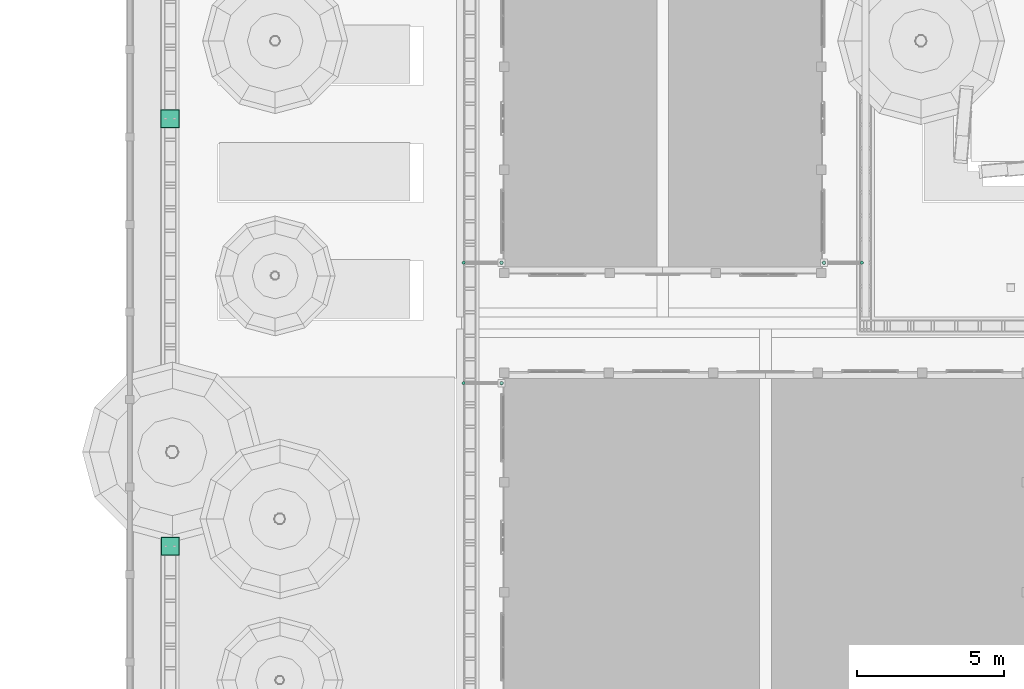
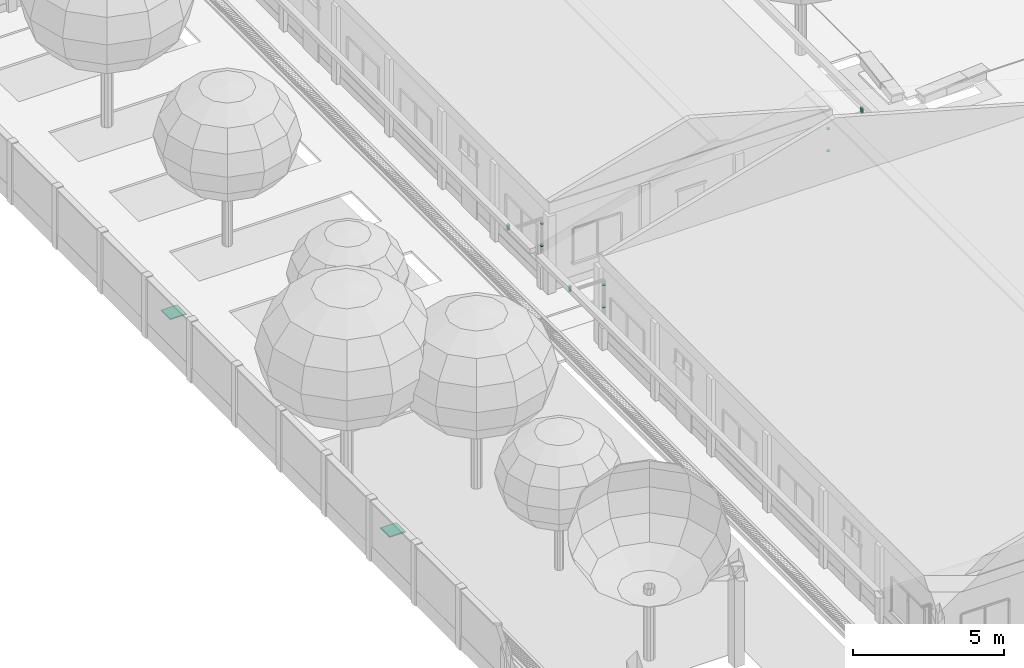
# One storey, part 112 of 166: 9 flow segments, 4 distribution chamber elements.
"""IFC2X3 building model written with IfcOpenShell, lengths in metres."""

from ifc_helpers import new_model, si_unit, origin, origin_with_axes, place, context, subcontext, project, spatial, faceted_brep, element, save


model = new_model("IFC2X3")

# Units and contexts
model_context = context("Model", 3, precision=1e-05, world=origin_with_axes())
body_context = subcontext(model_context, "Body", "Model", "MODEL_VIEW")
ifc_project = project(units=[si_unit("LENGTHUNIT", "METRE"), si_unit("AREAUNIT", "SQUARE_METRE"), si_unit("VOLUMEUNIT", "CUBIC_METRE"), si_unit("PLANEANGLEUNIT", "RADIAN")], contexts=[model_context])

# Site, building, storey
site_placement = place(None, origin_with_axes())
site = spatial("IfcSite", under=ifc_project, at=site_placement, Name="Predio Los Mangos - Morales, San Martín", CompositionType="ELEMENT")
building_placement = place(site_placement, origin())
building = spatial("IfcBuilding", under=site, at=building_placement, Name="Hogar de Refugio Temporal", CompositionType="ELEMENT")
storey_placement = place(building_placement, origin())
storey = spatial("IfcBuildingStorey", under=building, at=storey_placement, Name="NIVEL 1 (NPT +0.00)", CompositionType="ELEMENT", Elevation=0.0)

# Flow segments
flow_segment_1_placement = place(storey_placement, origin())
element("IfcFlowSegment", 1, at=flow_segment_1_placement, inside=storey, Name="montante_boquilla", ObjectType="Montante PVC 4\"", context=body_context, shape_type="Brep", body=[
    faceted_brep([(12.42, 48.405, 3.13), (12.42, 48.405, 2.91), (12.3925, 48.3976, 2.91), (12.3925, 48.3976, 3.13), (12.3724, 48.3775, 2.91), (12.3724, 48.3775, 3.13), (12.365, 48.35, 2.91), (12.365, 48.35, 3.13), (12.3724, 48.3225, 2.91), (12.3724, 48.3225, 3.13), (12.3925, 48.3024, 2.91), (12.3925, 48.3024, 3.13), (12.42, 48.295, 2.91), (12.42, 48.295, 3.13), (12.4475, 48.3024, 2.91), (12.4475, 48.3024, 3.13), (12.4676, 48.3225, 2.91), (12.4676, 48.3225, 3.13), (12.475, 48.35, 2.91), (12.475, 48.35, 3.13), (12.4676, 48.3775, 2.91), (12.4676, 48.3775, 3.13), (12.4475, 48.3976, 2.91), (12.4475, 48.3976, 3.13)], [[[0, 1, 2, 3]], [[3, 2, 4, 5]], [[5, 4, 6, 7]], [[7, 6, 8, 9]], [[9, 8, 10, 11]], [[11, 10, 12, 13]], [[13, 12, 14, 15]], [[15, 14, 16, 17]], [[17, 16, 18, 19]], [[19, 18, 20, 21]], [[2, 1, 22, 20, 18, 16, 14, 12, 10, 8, 6, 4]], [[21, 20, 22, 23]], [[23, 22, 1, 0]], [[0, 3, 5, 7, 9, 11, 13, 15, 17, 19, 21, 23]]]),
])
flow_segment_2_placement = place(storey_placement, origin())
element("IfcFlowSegment", 2, at=flow_segment_2_placement, inside=storey, Name="montante_abrazadera", ObjectType="Montante PVC 4\"", context=body_context, shape_type="Brep", body=[
    faceted_brep([(13.71, 48.288, 1.8), (13.71, 48.288, 1.84), (13.679, 48.2963, 1.84), (13.679, 48.2963, 1.8), (13.6563, 48.319, 1.84), (13.6563, 48.319, 1.8), (13.648, 48.35, 1.84), (13.648, 48.35, 1.8), (13.6563, 48.381, 1.84), (13.6563, 48.381, 1.8), (13.679, 48.4037, 1.84), (13.679, 48.4037, 1.8), (13.71, 48.412, 1.84), (13.71, 48.412, 1.8), (13.741, 48.4037, 1.84), (13.741, 48.4037, 1.8), (13.7637, 48.381, 1.84), (13.7637, 48.381, 1.8), (13.772, 48.35, 1.84), (13.772, 48.35, 1.8), (13.7637, 48.319, 1.84), (13.7637, 48.319, 1.8), (13.741, 48.2963, 1.84), (13.741, 48.2963, 1.8)], [[[0, 1, 2, 3]], [[3, 2, 4, 5]], [[5, 4, 6, 7]], [[7, 6, 8, 9]], [[9, 8, 10, 11]], [[11, 10, 12, 13]], [[13, 12, 14, 15]], [[15, 14, 16, 17]], [[17, 16, 18, 19]], [[19, 18, 20, 21]], [[2, 1, 22, 20, 18, 16, 14, 12, 10, 8, 6, 4]], [[21, 20, 22, 23]], [[23, 22, 1, 0]], [[0, 3, 5, 7, 9, 11, 13, 15, 17, 19, 21, 23]]]),
])
flow_segment_3_placement = place(storey_placement, origin())
element("IfcFlowSegment", 3, at=flow_segment_3_placement, inside=storey, Name="montante_abrazadera", ObjectType="Montante PVC 4\"", context=body_context, shape_type="Brep", body=[
    faceted_brep([(13.71, 48.288, 2.7), (13.71, 48.288, 2.74), (13.679, 48.2963, 2.74), (13.679, 48.2963, 2.7), (13.6563, 48.319, 2.74), (13.6563, 48.319, 2.7), (13.648, 48.35, 2.74), (13.648, 48.35, 2.7), (13.6563, 48.381, 2.74), (13.6563, 48.381, 2.7), (13.679, 48.4037, 2.74), (13.679, 48.4037, 2.7), (13.71, 48.412, 2.74), (13.71, 48.412, 2.7), (13.741, 48.4037, 2.74), (13.741, 48.4037, 2.7), (13.7637, 48.381, 2.74), (13.7637, 48.381, 2.7), (13.772, 48.35, 2.74), (13.772, 48.35, 2.7), (13.7637, 48.319, 2.74), (13.7637, 48.319, 2.7), (13.741, 48.2963, 2.74), (13.741, 48.2963, 2.7)], [[[0, 1, 2, 3]], [[3, 2, 4, 5]], [[5, 4, 6, 7]], [[7, 6, 8, 9]], [[9, 8, 10, 11]], [[11, 10, 12, 13]], [[13, 12, 14, 15]], [[15, 14, 16, 17]], [[17, 16, 18, 19]], [[19, 18, 20, 21]], [[2, 1, 22, 20, 18, 16, 14, 12, 10, 8, 6, 4]], [[21, 20, 22, 23]], [[23, 22, 1, 0]], [[0, 3, 5, 7, 9, 11, 13, 15, 17, 19, 21, 23]]]),
])
flow_segment_4_placement = place(storey_placement, origin())
element("IfcFlowSegment", 4, at=flow_segment_4_placement, inside=storey, Name="montante_boquilla", ObjectType="Montante PVC 4\"", context=body_context, shape_type="Brep", body=[
    faceted_brep([(12.42, 52.505, 3.13), (12.42, 52.505, 2.91), (12.3925, 52.4976, 2.91), (12.3925, 52.4976, 3.13), (12.3724, 52.4775, 2.91), (12.3724, 52.4775, 3.13), (12.365, 52.45, 2.91), (12.365, 52.45, 3.13), (12.3724, 52.4225, 2.91), (12.3724, 52.4225, 3.13), (12.3925, 52.4024, 2.91), (12.3925, 52.4024, 3.13), (12.42, 52.395, 2.91), (12.42, 52.395, 3.13), (12.4475, 52.4024, 2.91), (12.4475, 52.4024, 3.13), (12.4676, 52.4225, 2.91), (12.4676, 52.4225, 3.13), (12.475, 52.45, 2.91), (12.475, 52.45, 3.13), (12.4676, 52.4775, 2.91), (12.4676, 52.4775, 3.13), (12.4475, 52.4976, 2.91), (12.4475, 52.4976, 3.13)], [[[0, 1, 2, 3]], [[3, 2, 4, 5]], [[5, 4, 6, 7]], [[7, 6, 8, 9]], [[9, 8, 10, 11]], [[11, 10, 12, 13]], [[13, 12, 14, 15]], [[15, 14, 16, 17]], [[17, 16, 18, 19]], [[19, 18, 20, 21]], [[2, 1, 22, 20, 18, 16, 14, 12, 10, 8, 6, 4]], [[21, 20, 22, 23]], [[23, 22, 1, 0]], [[0, 3, 5, 7, 9, 11, 13, 15, 17, 19, 21, 23]]]),
])
flow_segment_5_placement = place(storey_placement, origin())
element("IfcFlowSegment", 5, at=flow_segment_5_placement, inside=storey, Name="montante_abrazadera", ObjectType="Montante PVC 4\"", context=body_context, shape_type="Brep", body=[
    faceted_brep([(13.71, 52.388, 1.8), (13.71, 52.388, 1.84), (13.679, 52.3963, 1.84), (13.679, 52.3963, 1.8), (13.6563, 52.419, 1.84), (13.6563, 52.419, 1.8), (13.648, 52.45, 1.84), (13.648, 52.45, 1.8), (13.6563, 52.481, 1.84), (13.6563, 52.481, 1.8), (13.679, 52.5037, 1.84), (13.679, 52.5037, 1.8), (13.71, 52.512, 1.84), (13.71, 52.512, 1.8), (13.741, 52.5037, 1.84), (13.741, 52.5037, 1.8), (13.7637, 52.481, 1.84), (13.7637, 52.481, 1.8), (13.772, 52.45, 1.84), (13.772, 52.45, 1.8), (13.7637, 52.419, 1.84), (13.7637, 52.419, 1.8), (13.741, 52.3963, 1.84), (13.741, 52.3963, 1.8)], [[[0, 1, 2, 3]], [[3, 2, 4, 5]], [[5, 4, 6, 7]], [[7, 6, 8, 9]], [[9, 8, 10, 11]], [[11, 10, 12, 13]], [[13, 12, 14, 15]], [[15, 14, 16, 17]], [[17, 16, 18, 19]], [[19, 18, 20, 21]], [[2, 1, 22, 20, 18, 16, 14, 12, 10, 8, 6, 4]], [[21, 20, 22, 23]], [[23, 22, 1, 0]], [[0, 3, 5, 7, 9, 11, 13, 15, 17, 19, 21, 23]]]),
])
flow_segment_6_placement = place(storey_placement, origin())
element("IfcFlowSegment", 6, at=flow_segment_6_placement, inside=storey, Name="montante_abrazadera", ObjectType="Montante PVC 4\"", context=body_context, shape_type="Brep", body=[
    faceted_brep([(13.71, 52.388, 2.7), (13.71, 52.388, 2.74), (13.679, 52.3963, 2.74), (13.679, 52.3963, 2.7), (13.6563, 52.419, 2.74), (13.6563, 52.419, 2.7), (13.648, 52.45, 2.74), (13.648, 52.45, 2.7), (13.6563, 52.481, 2.74), (13.6563, 52.481, 2.7), (13.679, 52.5037, 2.74), (13.679, 52.5037, 2.7), (13.71, 52.512, 2.74), (13.71, 52.512, 2.7), (13.741, 52.5037, 2.74), (13.741, 52.5037, 2.7), (13.7637, 52.481, 2.74), (13.7637, 52.481, 2.7), (13.772, 52.45, 2.74), (13.772, 52.45, 2.7), (13.7637, 52.419, 2.74), (13.7637, 52.419, 2.7), (13.741, 52.3963, 2.74), (13.741, 52.3963, 2.7)], [[[0, 1, 2, 3]], [[3, 2, 4, 5]], [[5, 4, 6, 7]], [[7, 6, 8, 9]], [[9, 8, 10, 11]], [[11, 10, 12, 13]], [[13, 12, 14, 15]], [[15, 14, 16, 17]], [[17, 16, 18, 19]], [[19, 18, 20, 21]], [[2, 1, 22, 20, 18, 16, 14, 12, 10, 8, 6, 4]], [[21, 20, 22, 23]], [[23, 22, 1, 0]], [[0, 3, 5, 7, 9, 11, 13, 15, 17, 19, 21, 23]]]),
])
flow_segment_7_placement = place(storey_placement, origin())
element("IfcFlowSegment", 7, at=flow_segment_7_placement, inside=storey, Name="montante_boquilla", ObjectType="Montante PVC 4\"", context=body_context, shape_type="Brep", body=[
    faceted_brep([(25.98, 52.505, 3.13), (25.98, 52.505, 2.91), (25.9525, 52.4976, 2.91), (25.9525, 52.4976, 3.13), (25.9324, 52.4775, 2.91), (25.9324, 52.4775, 3.13), (25.925, 52.45, 2.91), (25.925, 52.45, 3.13), (25.9324, 52.4225, 2.91), (25.9324, 52.4225, 3.13), (25.9525, 52.4024, 2.91), (25.9525, 52.4024, 3.13), (25.98, 52.395, 2.91), (25.98, 52.395, 3.13), (26.0075, 52.4024, 2.91), (26.0075, 52.4024, 3.13), (26.0276, 52.4225, 2.91), (26.0276, 52.4225, 3.13), (26.035, 52.45, 2.91), (26.035, 52.45, 3.13), (26.0276, 52.4775, 2.91), (26.0276, 52.4775, 3.13), (26.0075, 52.4976, 2.91), (26.0075, 52.4976, 3.13)], [[[0, 1, 2, 3]], [[3, 2, 4, 5]], [[5, 4, 6, 7]], [[7, 6, 8, 9]], [[9, 8, 10, 11]], [[11, 10, 12, 13]], [[13, 12, 14, 15]], [[15, 14, 16, 17]], [[17, 16, 18, 19]], [[19, 18, 20, 21]], [[2, 1, 22, 20, 18, 16, 14, 12, 10, 8, 6, 4]], [[21, 20, 22, 23]], [[23, 22, 1, 0]], [[0, 3, 5, 7, 9, 11, 13, 15, 17, 19, 21, 23]]]),
])
flow_segment_8_placement = place(storey_placement, origin())
element("IfcFlowSegment", 8, at=flow_segment_8_placement, inside=storey, Name="montante_abrazadera", ObjectType="Montante PVC 4\"", context=body_context, shape_type="Brep", body=[
    faceted_brep([(24.69, 52.388, 1.8), (24.69, 52.388, 1.84), (24.659, 52.3963, 1.84), (24.659, 52.3963, 1.8), (24.6363, 52.419, 1.84), (24.6363, 52.419, 1.8), (24.628, 52.45, 1.84), (24.628, 52.45, 1.8), (24.6363, 52.481, 1.84), (24.6363, 52.481, 1.8), (24.659, 52.5037, 1.84), (24.659, 52.5037, 1.8), (24.69, 52.512, 1.84), (24.69, 52.512, 1.8), (24.721, 52.5037, 1.84), (24.721, 52.5037, 1.8), (24.7437, 52.481, 1.84), (24.7437, 52.481, 1.8), (24.752, 52.45, 1.84), (24.752, 52.45, 1.8), (24.7437, 52.419, 1.84), (24.7437, 52.419, 1.8), (24.721, 52.3963, 1.84), (24.721, 52.3963, 1.8)], [[[0, 1, 2, 3]], [[3, 2, 4, 5]], [[5, 4, 6, 7]], [[7, 6, 8, 9]], [[9, 8, 10, 11]], [[11, 10, 12, 13]], [[13, 12, 14, 15]], [[15, 14, 16, 17]], [[17, 16, 18, 19]], [[19, 18, 20, 21]], [[2, 1, 22, 20, 18, 16, 14, 12, 10, 8, 6, 4]], [[21, 20, 22, 23]], [[23, 22, 1, 0]], [[0, 3, 5, 7, 9, 11, 13, 15, 17, 19, 21, 23]]]),
])
flow_segment_9_placement = place(storey_placement, origin())
element("IfcFlowSegment", 9, at=flow_segment_9_placement, inside=storey, Name="montante_abrazadera", ObjectType="Montante PVC 4\"", context=body_context, shape_type="Brep", body=[
    faceted_brep([(24.69, 52.388, 2.7), (24.69, 52.388, 2.74), (24.659, 52.3963, 2.74), (24.659, 52.3963, 2.7), (24.6363, 52.419, 2.74), (24.6363, 52.419, 2.7), (24.628, 52.45, 2.74), (24.628, 52.45, 2.7), (24.6363, 52.481, 2.74), (24.6363, 52.481, 2.7), (24.659, 52.5037, 2.74), (24.659, 52.5037, 2.7), (24.69, 52.512, 2.74), (24.69, 52.512, 2.7), (24.721, 52.5037, 2.74), (24.721, 52.5037, 2.7), (24.7437, 52.481, 2.74), (24.7437, 52.481, 2.7), (24.752, 52.45, 2.74), (24.752, 52.45, 2.7), (24.7437, 52.419, 2.74), (24.7437, 52.419, 2.7), (24.721, 52.3963, 2.74), (24.721, 52.3963, 2.7)], [[[0, 1, 2, 3]], [[3, 2, 4, 5]], [[5, 4, 6, 7]], [[7, 6, 8, 9]], [[9, 8, 10, 11]], [[11, 10, 12, 13]], [[13, 12, 14, 15]], [[15, 14, 16, 17]], [[17, 16, 18, 19]], [[19, 18, 20, 21]], [[2, 1, 22, 20, 18, 16, 14, 12, 10, 8, 6, 4]], [[21, 20, 22, 23]], [[23, 22, 1, 0]], [[0, 3, 5, 7, 9, 11, 13, 15, 17, 19, 21, 23]]]),
])

# Distribution chamber elements
distribution_chamber_element_1_placement = place(storey_placement, origin())
element("IfcDistributionChamberElement", 10, at=distribution_chamber_element_1_placement, inside=storey, Name="tapa_insp_junta", ObjectType="Tapa de inspección", context=body_context, shape_type="Brep", body=[
    faceted_brep([(2.098, 57.035, 0.082), (2.098, 57.675, 0.082), (2.738, 57.675, 0.082), (2.738, 57.035, 0.082), (2.098, 57.035, 0.096), (2.738, 57.035, 0.096), (2.738, 57.675, 0.096), (2.098, 57.675, 0.096)], [[[0, 1, 2, 3]], [[4, 5, 6, 7]], [[0, 3, 5, 4]], [[3, 2, 6, 5]], [[2, 1, 7, 6]], [[1, 0, 4, 7]]]),
])
distribution_chamber_element_2_placement = place(storey_placement, origin())
element("IfcDistributionChamberElement", 11, at=distribution_chamber_element_2_placement, inside=storey, Name="tapa_inspeccion", ObjectType="Tapa de inspección", context=body_context, shape_type="Brep", body=[
    faceted_brep([(2.118, 57.055, 0.082), (2.118, 57.655, 0.082), (2.718, 57.655, 0.082), (2.718, 57.055, 0.082), (2.118, 57.055, 0.104), (2.718, 57.055, 0.104), (2.718, 57.655, 0.104), (2.118, 57.655, 0.104)], [[[0, 1, 2, 3]], [[4, 5, 6, 7]], [[0, 3, 5, 4]], [[3, 2, 6, 5]], [[2, 1, 7, 6]], [[1, 0, 4, 7]]]),
])
distribution_chamber_element_3_placement = place(storey_placement, origin())
element("IfcDistributionChamberElement", 12, at=distribution_chamber_element_3_placement, inside=storey, Name="tapa_insp_junta", ObjectType="Tapa de inspección", context=body_context, shape_type="Brep", body=[
    faceted_brep([(2.106, 42.472, 0.082), (2.106, 43.112, 0.082), (2.746, 43.112, 0.082), (2.746, 42.472, 0.082), (2.106, 42.472, 0.096), (2.746, 42.472, 0.096), (2.746, 43.112, 0.096), (2.106, 43.112, 0.096)], [[[0, 1, 2, 3]], [[4, 5, 6, 7]], [[0, 3, 5, 4]], [[3, 2, 6, 5]], [[2, 1, 7, 6]], [[1, 0, 4, 7]]]),
])
distribution_chamber_element_4_placement = place(storey_placement, origin())
element("IfcDistributionChamberElement", 13, at=distribution_chamber_element_4_placement, inside=storey, Name="tapa_inspeccion", ObjectType="Tapa de inspección", context=body_context, shape_type="Brep", body=[
    faceted_brep([(2.126, 42.492, 0.082), (2.126, 43.092, 0.082), (2.726, 43.092, 0.082), (2.726, 42.492, 0.082), (2.126, 42.492, 0.104), (2.726, 42.492, 0.104), (2.726, 43.092, 0.104), (2.126, 43.092, 0.104)], [[[0, 1, 2, 3]], [[4, 5, 6, 7]], [[0, 3, 5, 4]], [[3, 2, 6, 5]], [[2, 1, 7, 6]], [[1, 0, 4, 7]]]),
])

save(model, "model.ifc")
